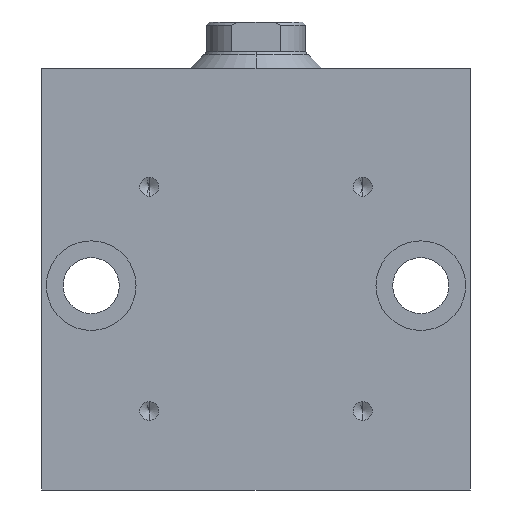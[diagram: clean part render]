
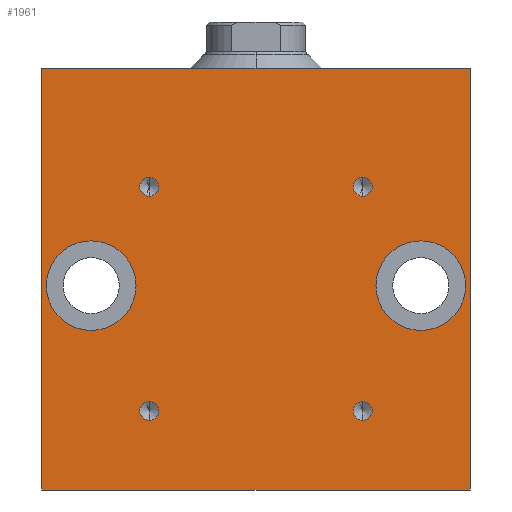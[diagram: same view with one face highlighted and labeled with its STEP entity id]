
A CAD part, left-side view. The second image highlights one B-rep face of the part: STEP entity #1961.
In plain terms, the highlighted planar face has unit normal (-1, 0, 0).
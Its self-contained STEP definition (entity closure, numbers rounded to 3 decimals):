
#11 = CARTESIAN_POINT ( 'NONE',  ( -22.5, 25., -46.8 ) ) ;
#89 = AXIS2_PLACEMENT_3D ( 'NONE', #202, #566, #2148 ) ;
#101 = CIRCLE ( 'NONE', #2853, 1.425 ) ;
#116 = CARTESIAN_POINT ( 'NONE',  ( -22.5, 25., -40. ) ) ;
#198 = CARTESIAN_POINT ( 'NONE',  ( -22.5, 16.2, -25. ) ) ;
#202 = CARTESIAN_POINT ( 'NONE',  ( -22.5, -16.2, -25. ) ) ;
#220 = DIRECTION ( 'NONE',  ( -1., 0., 0. ) ) ;
#236 = ORIENTED_EDGE ( 'NONE', *, *, #959, .F. ) ;
#244 = CIRCLE ( 'NONE', #3008, 1.425 ) ;
#250 = ORIENTED_EDGE ( 'NONE', *, *, #1641, .F. ) ;
#251 = AXIS2_PLACEMENT_3D ( 'NONE', #116, #4724, #3221 ) ;
#281 = FACE_OUTER_BOUND ( 'NONE', #4681, .T. ) ;
#287 = CARTESIAN_POINT ( 'NONE',  ( -22.5, -16.2, -26.425 ) ) ;
#291 = CIRCLE ( 'NONE', #1634, 1.425 ) ;
#387 = CARTESIAN_POINT ( 'NONE',  ( -22.5, -16.2, -60.425 ) ) ;
#441 = CARTESIAN_POINT ( 'NONE',  ( -22.5, -25., -40. ) ) ;
#463 = ORIENTED_EDGE ( 'NONE', *, *, #4858, .F. ) ;
#519 = CARTESIAN_POINT ( 'NONE',  ( -22.5, 16.2, -25. ) ) ;
#534 = AXIS2_PLACEMENT_3D ( 'NONE', #802, #4591, #2735 ) ;
#541 = CARTESIAN_POINT ( 'NONE',  ( -22.5, 16.2, -26.425 ) ) ;
#544 = CARTESIAN_POINT ( 'NONE',  ( -22.5, -16.2, -59. ) ) ;
#551 = ORIENTED_EDGE ( 'NONE', *, *, #686, .F. ) ;
#559 = EDGE_LOOP ( 'NONE', ( #3530, #236 ) ) ;
#566 = DIRECTION ( 'NONE',  ( -1., 0., 0. ) ) ;
#595 = EDGE_LOOP ( 'NONE', ( #250, #551 ) ) ;
#633 = CIRCLE ( 'NONE', #89, 1.425 ) ;
#671 = CARTESIAN_POINT ( 'NONE',  ( -22.5, 32.5, -71. ) ) ;
#681 = CARTESIAN_POINT ( 'NONE',  ( -22.5, 16.2, -60.425 ) ) ;
#686 = EDGE_CURVE ( 'NONE', #2447, #3194, #4784, .T. ) ;
#687 = CARTESIAN_POINT ( 'NONE',  ( -22.5, 32.5, -71. ) ) ;
#753 = CIRCLE ( 'NONE', #1777, 1.425 ) ;
#779 = EDGE_CURVE ( 'NONE', #4722, #1129, #2162, .T. ) ;
#799 = ORIENTED_EDGE ( 'NONE', *, *, #2562, .F. ) ;
#802 = CARTESIAN_POINT ( 'NONE',  ( -22.5, 16.2, -59. ) ) ;
#854 = ORIENTED_EDGE ( 'NONE', *, *, #4222, .F. ) ;
#897 = AXIS2_PLACEMENT_3D ( 'NONE', #1083, #1474, #4579 ) ;
#912 = EDGE_CURVE ( 'NONE', #4810, #3612, #291, .T. ) ;
#915 = VERTEX_POINT ( 'NONE', #387 ) ;
#959 = EDGE_CURVE ( 'NONE', #3413, #1247, #1050, .T. ) ;
#969 = AXIS2_PLACEMENT_3D ( 'NONE', #519, #220, #3596 ) ;
#990 = CARTESIAN_POINT ( 'NONE',  ( -22.5, 32.5, -71. ) ) ;
#1050 = CIRCLE ( 'NONE', #969, 1.425 ) ;
#1083 = CARTESIAN_POINT ( 'NONE',  ( -22.5, 16.2, -59. ) ) ;
#1129 = VERTEX_POINT ( 'NONE', #3253 ) ;
#1247 = VERTEX_POINT ( 'NONE', #1956 ) ;
#1277 = ORIENTED_EDGE ( 'NONE', *, *, #3933, .F. ) ;
#1293 = DIRECTION ( 'NONE',  ( 0., 0., 1. ) ) ;
#1328 = VERTEX_POINT ( 'NONE', #2453 ) ;
#1350 = EDGE_CURVE ( 'NONE', #4730, #4028, #3133, .T. ) ;
#1378 = FACE_BOUND ( 'NONE', #1583, .T. ) ;
#1383 = CIRCLE ( 'NONE', #4421, 6.8 ) ;
#1401 = PLANE ( 'NONE',  #2524 ) ;
#1447 = ORIENTED_EDGE ( 'NONE', *, *, #912, .F. ) ;
#1474 = DIRECTION ( 'NONE',  ( -1., 0., 0. ) ) ;
#1501 = ORIENTED_EDGE ( 'NONE', *, *, #1350, .F. ) ;
#1540 = AXIS2_PLACEMENT_3D ( 'NONE', #4208, #1954, #3860 ) ;
#1546 = LINE ( 'NONE', #3729, #2649 ) ;
#1571 = DIRECTION ( 'NONE',  ( -1., 0., 0. ) ) ;
#1583 = EDGE_LOOP ( 'NONE', ( #4242, #4254 ) ) ;
#1634 = AXIS2_PLACEMENT_3D ( 'NONE', #2833, #4319, #2408 ) ;
#1641 = EDGE_CURVE ( 'NONE', #3194, #2447, #4522, .T. ) ;
#1759 = LINE ( 'NONE', #671, #4278 ) ;
#1777 = AXIS2_PLACEMENT_3D ( 'NONE', #544, #4642, #1293 ) ;
#1845 = DIRECTION ( 'NONE',  ( 0., -1., 0. ) ) ;
#1954 = DIRECTION ( 'NONE',  ( -1., 0., 0. ) ) ;
#1956 = CARTESIAN_POINT ( 'NONE',  ( -22.5, 16.2, -23.575 ) ) ;
#1961 = ADVANCED_FACE ( 'NONE', ( #3317, #2564, #2530, #4474, #4076, #1378, #281 ), #1401, .T. ) ;
#1983 = CIRCLE ( 'NONE', #251, 6.8 ) ;
#2016 = CARTESIAN_POINT ( 'NONE',  ( -22.5, -32.5, -7. ) ) ;
#2019 = CIRCLE ( 'NONE', #1540, 6.8 ) ;
#2148 = DIRECTION ( 'NONE',  ( 0., 0., 1. ) ) ;
#2162 = CIRCLE ( 'NONE', #4316, 6.8 ) ;
#2172 = DIRECTION ( 'NONE',  ( 0., 0., 1. ) ) ;
#2188 = DIRECTION ( 'NONE',  ( -1., 0., 0. ) ) ;
#2306 = VERTEX_POINT ( 'NONE', #11 ) ;
#2408 = DIRECTION ( 'NONE',  ( 0., 0., 1. ) ) ;
#2441 = CARTESIAN_POINT ( 'NONE',  ( -22.5, -25., -40. ) ) ;
#2447 = VERTEX_POINT ( 'NONE', #681 ) ;
#2453 = CARTESIAN_POINT ( 'NONE',  ( -22.5, -32.5, -71. ) ) ;
#2455 = CARTESIAN_POINT ( 'NONE',  ( -22.5, -16.2, -23.575 ) ) ;
#2524 = AXIS2_PLACEMENT_3D ( 'NONE', #687, #2188, #2972 ) ;
#2527 = CARTESIAN_POINT ( 'NONE',  ( -22.5, -32.5, -71. ) ) ;
#2530 = FACE_BOUND ( 'NONE', #595, .T. ) ;
#2551 = EDGE_LOOP ( 'NONE', ( #3135, #1447 ) ) ;
#2562 = EDGE_CURVE ( 'NONE', #3022, #915, #101, .T. ) ;
#2564 = FACE_BOUND ( 'NONE', #2551, .T. ) ;
#2601 = DIRECTION ( 'NONE',  ( -1., 0., 0. ) ) ;
#2649 = VECTOR ( 'NONE', #1845, 1000. ) ;
#2670 = ORIENTED_EDGE ( 'NONE', *, *, #4505, .T. ) ;
#2735 = DIRECTION ( 'NONE',  ( 0., 0., 1. ) ) ;
#2787 = EDGE_CURVE ( 'NONE', #4857, #2306, #1983, .T. ) ;
#2792 = DIRECTION ( 'NONE',  ( -1., 0., 0. ) ) ;
#2833 = CARTESIAN_POINT ( 'NONE',  ( -22.5, -16.2, -25. ) ) ;
#2844 = ORIENTED_EDGE ( 'NONE', *, *, #779, .F. ) ;
#2853 = AXIS2_PLACEMENT_3D ( 'NONE', #4541, #2601, #4833 ) ;
#2972 = DIRECTION ( 'NONE',  ( 0., 0., 1. ) ) ;
#3008 = AXIS2_PLACEMENT_3D ( 'NONE', #198, #1571, #3044 ) ;
#3022 = VERTEX_POINT ( 'NONE', #3312 ) ;
#3044 = DIRECTION ( 'NONE',  ( 0., 0., 1. ) ) ;
#3133 = LINE ( 'NONE', #4240, #4702 ) ;
#3135 = ORIENTED_EDGE ( 'NONE', *, *, #3261, .F. ) ;
#3143 = CARTESIAN_POINT ( 'NONE',  ( -22.5, 16.2, -57.575 ) ) ;
#3194 = VERTEX_POINT ( 'NONE', #3143 ) ;
#3219 = EDGE_LOOP ( 'NONE', ( #854, #2844 ) ) ;
#3221 = DIRECTION ( 'NONE',  ( 0., 0., -1. ) ) ;
#3253 = CARTESIAN_POINT ( 'NONE',  ( -22.5, -25., -33.2 ) ) ;
#3261 = EDGE_CURVE ( 'NONE', #3612, #4810, #633, .T. ) ;
#3312 = CARTESIAN_POINT ( 'NONE',  ( -22.5, -16.2, -57.575 ) ) ;
#3317 = FACE_BOUND ( 'NONE', #559, .T. ) ;
#3386 = LINE ( 'NONE', #2527, #3870 ) ;
#3413 = VERTEX_POINT ( 'NONE', #541 ) ;
#3530 = ORIENTED_EDGE ( 'NONE', *, *, #4596, .F. ) ;
#3544 = VERTEX_POINT ( 'NONE', #990 ) ;
#3548 = DIRECTION ( 'NONE',  ( 0., -1., 0. ) ) ;
#3596 = DIRECTION ( 'NONE',  ( 0., 0., 1. ) ) ;
#3612 = VERTEX_POINT ( 'NONE', #2455 ) ;
#3680 = EDGE_CURVE ( 'NONE', #2306, #4857, #2019, .T. ) ;
#3729 = CARTESIAN_POINT ( 'NONE',  ( -22.5, 32.5, -71. ) ) ;
#3843 = EDGE_LOOP ( 'NONE', ( #799, #1277 ) ) ;
#3860 = DIRECTION ( 'NONE',  ( 0., 0., -1. ) ) ;
#3870 = VECTOR ( 'NONE', #4813, 1000. ) ;
#3933 = EDGE_CURVE ( 'NONE', #915, #3022, #753, .T. ) ;
#4028 = VERTEX_POINT ( 'NONE', #2016 ) ;
#4034 = CARTESIAN_POINT ( 'NONE',  ( -22.5, -25., -46.8 ) ) ;
#4056 = CARTESIAN_POINT ( 'NONE',  ( -22.5, 25., -33.2 ) ) ;
#4076 = FACE_BOUND ( 'NONE', #3219, .T. ) ;
#4104 = EDGE_CURVE ( 'NONE', #3544, #1328, #1546, .T. ) ;
#4140 = DIRECTION ( 'NONE',  ( -1., 0., 0. ) ) ;
#4208 = CARTESIAN_POINT ( 'NONE',  ( -22.5, 25., -40. ) ) ;
#4219 = DIRECTION ( 'NONE',  ( 0., 0., -1. ) ) ;
#4222 = EDGE_CURVE ( 'NONE', #1129, #4722, #1383, .T. ) ;
#4240 = CARTESIAN_POINT ( 'NONE',  ( -22.5, 32.5, -7. ) ) ;
#4242 = ORIENTED_EDGE ( 'NONE', *, *, #2787, .F. ) ;
#4254 = ORIENTED_EDGE ( 'NONE', *, *, #3680, .F. ) ;
#4278 = VECTOR ( 'NONE', #2172, 1000. ) ;
#4316 = AXIS2_PLACEMENT_3D ( 'NONE', #441, #4140, #4219 ) ;
#4319 = DIRECTION ( 'NONE',  ( -1., 0., 0. ) ) ;
#4421 = AXIS2_PLACEMENT_3D ( 'NONE', #2441, #2792, #4690 ) ;
#4474 = FACE_BOUND ( 'NONE', #3843, .T. ) ;
#4505 = EDGE_CURVE ( 'NONE', #1328, #4028, #3386, .T. ) ;
#4522 = CIRCLE ( 'NONE', #897, 1.425 ) ;
#4541 = CARTESIAN_POINT ( 'NONE',  ( -22.5, -16.2, -59. ) ) ;
#4579 = DIRECTION ( 'NONE',  ( 0., 0., 1. ) ) ;
#4591 = DIRECTION ( 'NONE',  ( -1., 0., 0. ) ) ;
#4596 = EDGE_CURVE ( 'NONE', #1247, #3413, #244, .T. ) ;
#4642 = DIRECTION ( 'NONE',  ( -1., 0., 0. ) ) ;
#4667 = ORIENTED_EDGE ( 'NONE', *, *, #4104, .T. ) ;
#4681 = EDGE_LOOP ( 'NONE', ( #1501, #463, #4667, #2670 ) ) ;
#4690 = DIRECTION ( 'NONE',  ( 0., 0., -1. ) ) ;
#4702 = VECTOR ( 'NONE', #3548, 1000. ) ;
#4722 = VERTEX_POINT ( 'NONE', #4034 ) ;
#4724 = DIRECTION ( 'NONE',  ( -1., 0., 0. ) ) ;
#4730 = VERTEX_POINT ( 'NONE', #4756 ) ;
#4756 = CARTESIAN_POINT ( 'NONE',  ( -22.5, 32.5, -7. ) ) ;
#4784 = CIRCLE ( 'NONE', #534, 1.425 ) ;
#4810 = VERTEX_POINT ( 'NONE', #287 ) ;
#4813 = DIRECTION ( 'NONE',  ( 0., 0., 1. ) ) ;
#4833 = DIRECTION ( 'NONE',  ( 0., 0., 1. ) ) ;
#4857 = VERTEX_POINT ( 'NONE', #4056 ) ;
#4858 = EDGE_CURVE ( 'NONE', #3544, #4730, #1759, .T. ) ;
